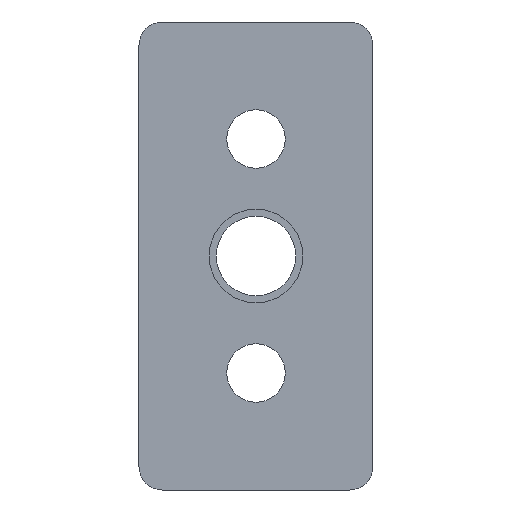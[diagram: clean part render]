
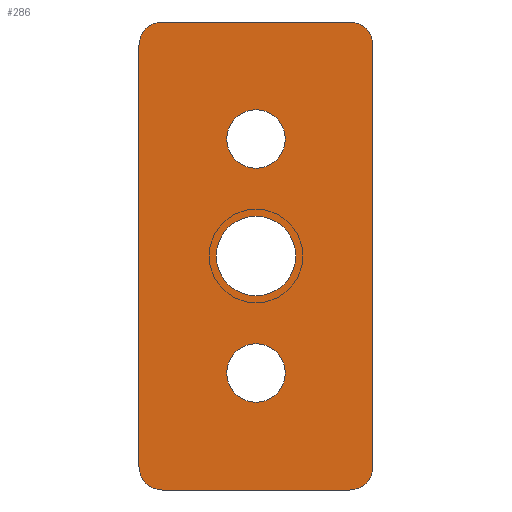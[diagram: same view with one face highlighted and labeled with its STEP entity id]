
A CAD part, front view. The second image highlights one B-rep face of the part: STEP entity #286.
In plain terms, the highlighted planar face has unit normal (0, -1, 0).
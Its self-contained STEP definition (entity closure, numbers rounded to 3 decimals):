
#1=CARTESIAN_POINT('',(0.,0.,-10.));
#2=DIRECTION('',(0.,-1.,0.));
#3=DIRECTION('',(1.,0.,0.));
#4=AXIS2_PLACEMENT_3D('',#1,#2,#3);
#6=CARTESIAN_POINT('',(0.,0.,-10.));
#7=DIRECTION('',(0.,-1.,0.));
#8=DIRECTION('',(-1.,0.,0.));
#9=AXIS2_PLACEMENT_3D('',#6,#7,#8);
#11=CARTESIAN_POINT('',(0.,0.,10.));
#12=DIRECTION('',(0.,-1.,0.));
#13=DIRECTION('',(1.,0.,0.));
#14=AXIS2_PLACEMENT_3D('',#11,#12,#13);
#16=CARTESIAN_POINT('',(0.,0.,10.));
#17=DIRECTION('',(0.,-1.,0.));
#18=DIRECTION('',(-1.,0.,0.));
#19=AXIS2_PLACEMENT_3D('',#16,#17,#18);
#21=CARTESIAN_POINT('',(0.,0.,0.));
#22=DIRECTION('',(0.,1.,0.));
#23=DIRECTION('',(1.,0.,0.));
#24=AXIS2_PLACEMENT_3D('',#21,#22,#23);
#26=CARTESIAN_POINT('',(0.,0.,0.));
#27=DIRECTION('',(0.,1.,0.));
#28=DIRECTION('',(-1.,0.,0.));
#29=AXIS2_PLACEMENT_3D('',#26,#27,#28);
#31=CARTESIAN_POINT('',(-8.,0.,-18.));
#32=DIRECTION('',(0.,-1.,0.));
#33=DIRECTION('',(-1.,0.,0.));
#34=AXIS2_PLACEMENT_3D('',#31,#32,#33);
#36=DIRECTION('',(0.,0.,1.));
#37=VECTOR('',#36,36.);
#38=CARTESIAN_POINT('',(-10.,0.,-18.));
#39=LINE('',#38,#37);
#40=CARTESIAN_POINT('',(-8.,0.,18.));
#41=DIRECTION('',(0.,-1.,0.));
#42=DIRECTION('',(0.,0.,1.));
#43=AXIS2_PLACEMENT_3D('',#40,#41,#42);
#45=DIRECTION('',(1.,0.,0.));
#46=VECTOR('',#45,16.);
#47=CARTESIAN_POINT('',(-8.,0.,20.));
#48=LINE('',#47,#46);
#49=CARTESIAN_POINT('',(8.,0.,18.));
#50=DIRECTION('',(0.,-1.,0.));
#51=DIRECTION('',(1.,0.,0.));
#52=AXIS2_PLACEMENT_3D('',#49,#50,#51);
#54=DIRECTION('',(0.,0.,-1.));
#55=VECTOR('',#54,36.);
#56=CARTESIAN_POINT('',(10.,0.,18.));
#57=LINE('',#56,#55);
#58=CARTESIAN_POINT('',(8.,0.,-18.));
#59=DIRECTION('',(0.,-1.,0.));
#60=DIRECTION('',(0.,0.,-1.));
#61=AXIS2_PLACEMENT_3D('',#58,#59,#60);
#63=DIRECTION('',(-1.,0.,0.));
#64=VECTOR('',#63,16.);
#65=CARTESIAN_POINT('',(8.,0.,-20.));
#66=LINE('',#65,#64);
#189=CARTESIAN_POINT('',(2.5,0.,-10.));
#190=CARTESIAN_POINT('',(-2.5,0.,-10.));
#191=VERTEX_POINT('',#189);
#192=VERTEX_POINT('',#190);
#193=CARTESIAN_POINT('',(2.5,0.,10.));
#194=CARTESIAN_POINT('',(-2.5,0.,10.));
#195=VERTEX_POINT('',#193);
#196=VERTEX_POINT('',#194);
#205=CARTESIAN_POINT('',(3.4,0.,0.));
#206=CARTESIAN_POINT('',(-3.4,0.,0.));
#207=VERTEX_POINT('',#205);
#208=VERTEX_POINT('',#206);
#213=CARTESIAN_POINT('',(-10.,0.,-18.));
#214=CARTESIAN_POINT('',(-8.,0.,-20.));
#215=VERTEX_POINT('',#213);
#216=VERTEX_POINT('',#214);
#221=CARTESIAN_POINT('',(-8.,0.,20.));
#222=CARTESIAN_POINT('',(-10.,0.,18.));
#223=VERTEX_POINT('',#221);
#224=VERTEX_POINT('',#222);
#229=CARTESIAN_POINT('',(10.,0.,18.));
#230=CARTESIAN_POINT('',(8.,0.,20.));
#231=VERTEX_POINT('',#229);
#232=VERTEX_POINT('',#230);
#237=CARTESIAN_POINT('',(8.,0.,-20.));
#238=CARTESIAN_POINT('',(10.,0.,-18.));
#239=VERTEX_POINT('',#237);
#240=VERTEX_POINT('',#238);
#245=CARTESIAN_POINT('',(0.,0.,0.));
#246=DIRECTION('',(0.,1.,0.));
#247=DIRECTION('',(1.,0.,0.));
#248=AXIS2_PLACEMENT_3D('',#245,#246,#247);
#249=PLANE('',#248);
#251=ORIENTED_EDGE('',*,*,#250,.F.);
#253=ORIENTED_EDGE('',*,*,#252,.T.);
#255=ORIENTED_EDGE('',*,*,#254,.F.);
#257=ORIENTED_EDGE('',*,*,#256,.T.);
#259=ORIENTED_EDGE('',*,*,#258,.F.);
#261=ORIENTED_EDGE('',*,*,#260,.T.);
#263=ORIENTED_EDGE('',*,*,#262,.F.);
#265=ORIENTED_EDGE('',*,*,#264,.T.);
#266=EDGE_LOOP('',(#251,#253,#255,#257,#259,#261,#263,#265));
#267=FACE_OUTER_BOUND('',#266,.F.);
#269=ORIENTED_EDGE('',*,*,#268,.T.);
#271=ORIENTED_EDGE('',*,*,#270,.T.);
#272=EDGE_LOOP('',(#269,#271));
#273=FACE_BOUND('',#272,.F.);
#275=ORIENTED_EDGE('',*,*,#274,.F.);
#277=ORIENTED_EDGE('',*,*,#276,.F.);
#278=EDGE_LOOP('',(#275,#277));
#279=FACE_BOUND('',#278,.F.);
#281=ORIENTED_EDGE('',*,*,#280,.T.);
#283=ORIENTED_EDGE('',*,*,#282,.T.);
#284=EDGE_LOOP('',(#281,#283));
#285=FACE_BOUND('',#284,.F.);
#286=ADVANCED_FACE('',(#267,#273,#279,#285),#249,.F.);
#5=CIRCLE('',#4,2.5);
#10=CIRCLE('',#9,2.5);
#15=CIRCLE('',#14,2.5);
#20=CIRCLE('',#19,2.5);
#25=CIRCLE('',#24,3.4);
#30=CIRCLE('',#29,3.4);
#35=CIRCLE('',#34,2.);
#44=CIRCLE('',#43,2.);
#53=CIRCLE('',#52,2.);
#62=CIRCLE('',#61,2.);
#250=EDGE_CURVE('',#215,#216,#35,.T.);
#252=EDGE_CURVE('',#215,#224,#39,.T.);
#254=EDGE_CURVE('',#223,#224,#44,.T.);
#256=EDGE_CURVE('',#223,#232,#48,.T.);
#258=EDGE_CURVE('',#231,#232,#53,.T.);
#260=EDGE_CURVE('',#231,#240,#57,.T.);
#262=EDGE_CURVE('',#239,#240,#62,.T.);
#264=EDGE_CURVE('',#239,#216,#66,.T.);
#268=EDGE_CURVE('',#195,#196,#15,.T.);
#270=EDGE_CURVE('',#196,#195,#20,.T.);
#274=EDGE_CURVE('',#207,#208,#25,.T.);
#276=EDGE_CURVE('',#208,#207,#30,.T.);
#280=EDGE_CURVE('',#191,#192,#5,.T.);
#282=EDGE_CURVE('',#192,#191,#10,.T.);
